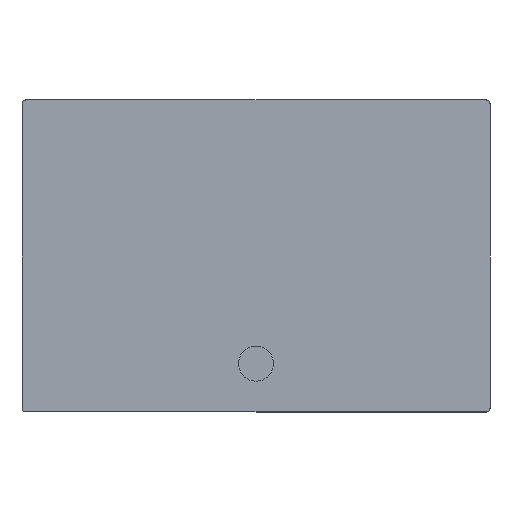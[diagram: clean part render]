
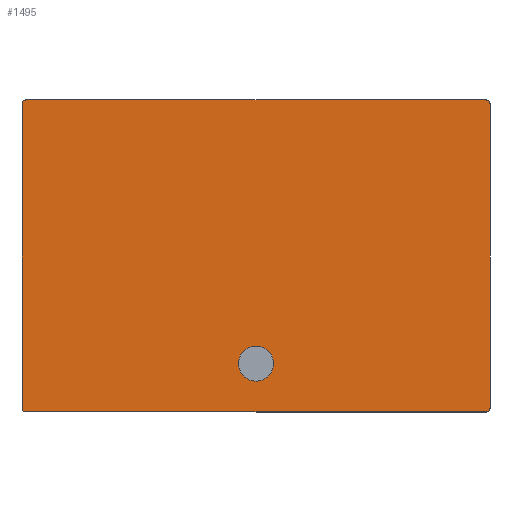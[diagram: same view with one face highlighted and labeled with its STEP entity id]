
A CAD part, front view. The second image highlights one B-rep face of the part: STEP entity #1495.
In plain terms, the highlighted planar face has unit normal (0, -1, 0).
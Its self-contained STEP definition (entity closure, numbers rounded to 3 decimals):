
#48=FACE_BOUND('',#265,.T.);
#69=PLANE('',#1677);
#157=FACE_OUTER_BOUND('',#264,.T.);
#264=EDGE_LOOP('',(#1222,#1223,#1224,#1225,#1226,#1227,#1228,#1229));
#265=EDGE_LOOP('',(#1230));
#366=LINE('',#2764,#465);
#369=LINE('',#2770,#468);
#371=LINE('',#2779,#470);
#376=LINE('',#2800,#475);
#465=VECTOR('',#2028,10.);
#468=VECTOR('',#2033,10.);
#470=VECTOR('',#2045,10.);
#475=VECTOR('',#2074,10.);
#544=CIRCLE('',#1638,10.);
#549=CIRCLE('',#1646,10.);
#554=CIRCLE('',#1658,10.);
#558=CIRCLE('',#1664,10.);
#564=CIRCLE('',#1676,45.);
#671=VERTEX_POINT('',#2738);
#672=VERTEX_POINT('',#2739);
#676=VERTEX_POINT('',#2754);
#677=VERTEX_POINT('',#2755);
#680=VERTEX_POINT('',#2768);
#682=VERTEX_POINT('',#2778);
#683=VERTEX_POINT('',#2782);
#686=VERTEX_POINT('',#2793);
#690=VERTEX_POINT('',#2812);
#836=EDGE_CURVE('',#671,#672,#544,.T.);
#844=EDGE_CURVE('',#676,#677,#549,.T.);
#849=EDGE_CURVE('',#671,#677,#366,.F.);
#852=EDGE_CURVE('',#676,#680,#369,.F.);
#856=EDGE_CURVE('',#682,#672,#371,.T.);
#858=EDGE_CURVE('',#683,#680,#554,.T.);
#864=EDGE_CURVE('',#682,#686,#558,.T.);
#867=EDGE_CURVE('',#683,#686,#376,.F.);
#874=EDGE_CURVE('',#690,#690,#564,.T.);
#1222=ORIENTED_EDGE('',*,*,#836,.F.);
#1223=ORIENTED_EDGE('',*,*,#849,.T.);
#1224=ORIENTED_EDGE('',*,*,#844,.F.);
#1225=ORIENTED_EDGE('',*,*,#852,.T.);
#1226=ORIENTED_EDGE('',*,*,#858,.F.);
#1227=ORIENTED_EDGE('',*,*,#867,.T.);
#1228=ORIENTED_EDGE('',*,*,#864,.F.);
#1229=ORIENTED_EDGE('',*,*,#856,.T.);
#1230=ORIENTED_EDGE('',*,*,#874,.T.);
#1495=ADVANCED_FACE('',(#157,#48),#69,.T.);
#1638=AXIS2_PLACEMENT_3D('',#2740,#1997,#1998);
#1646=AXIS2_PLACEMENT_3D('',#2756,#2016,#2017);
#1658=AXIS2_PLACEMENT_3D('',#2783,#2049,#2050);
#1664=AXIS2_PLACEMENT_3D('',#2794,#2063,#2064);
#1676=AXIS2_PLACEMENT_3D('',#2814,#2091,#2092);
#1677=AXIS2_PLACEMENT_3D('',#2815,#2093,#2094);
#1997=DIRECTION('center_axis',(0.,1.,0.));
#1998=DIRECTION('ref_axis',(0.707,0.,-0.707));
#2016=DIRECTION('center_axis',(0.,1.,0.));
#2017=DIRECTION('ref_axis',(0.707,0.,0.707));
#2028=DIRECTION('',(0.,0.,-1.));
#2033=DIRECTION('',(1.,0.,0.));
#2045=DIRECTION('',(1.,0.,0.));
#2049=DIRECTION('center_axis',(0.,1.,0.));
#2050=DIRECTION('ref_axis',(-0.707,0.,0.707));
#2063=DIRECTION('center_axis',(0.,1.,0.));
#2064=DIRECTION('ref_axis',(-0.707,0.,-0.707));
#2074=DIRECTION('',(0.,0.,1.));
#2091=DIRECTION('center_axis',(0.,1.,0.));
#2092=DIRECTION('ref_axis',(-1.,0.,0.));
#2093=DIRECTION('center_axis',(0.,-1.,0.));
#2094=DIRECTION('ref_axis',(-1.,0.,0.));
#2738=CARTESIAN_POINT('',(593.707,402.217,10.));
#2739=CARTESIAN_POINT('',(583.707,402.217,0.));
#2740=CARTESIAN_POINT('Origin',(583.707,402.217,10.));
#2754=CARTESIAN_POINT('',(583.707,402.217,800.));
#2755=CARTESIAN_POINT('',(593.707,402.217,790.));
#2756=CARTESIAN_POINT('Origin',(583.707,402.217,790.));
#2764=CARTESIAN_POINT('',(593.707,402.217,400.));
#2768=CARTESIAN_POINT('',(-596.293,402.217,800.));
#2770=CARTESIAN_POINT('',(-256.293,402.217,800.));
#2778=CARTESIAN_POINT('',(-596.293,402.217,0.));
#2779=CARTESIAN_POINT('',(-496.293,402.217,0.));
#2782=CARTESIAN_POINT('',(-606.293,402.217,790.));
#2783=CARTESIAN_POINT('Origin',(-596.293,402.217,790.));
#2793=CARTESIAN_POINT('',(-606.293,402.217,10.));
#2794=CARTESIAN_POINT('Origin',(-596.293,402.217,10.));
#2800=CARTESIAN_POINT('',(-606.293,402.217,400.));
#2812=CARTESIAN_POINT('',(38.707,402.217,124.153));
#2814=CARTESIAN_POINT('Origin',(-6.293,402.217,124.153));
#2815=CARTESIAN_POINT('Origin',(-506.293,402.217,400.));
